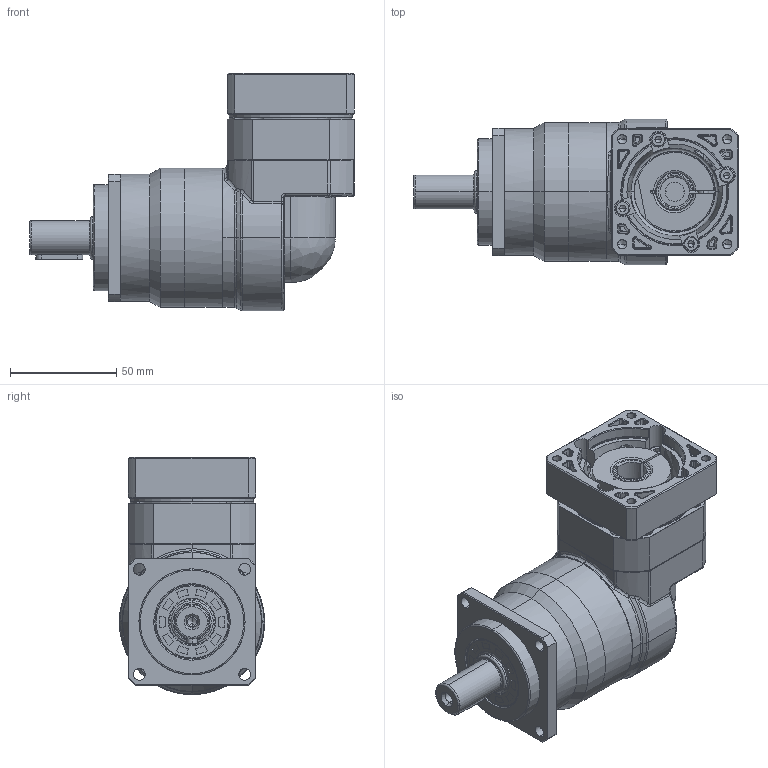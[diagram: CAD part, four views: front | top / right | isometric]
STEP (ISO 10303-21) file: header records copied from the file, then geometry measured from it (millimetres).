
FILE_DESCRIPTION (( 'STEP AP214' ), '1' );
FILE_NAME ('EVB060-L1-S2-P1 14-50-70-M5-33.STEP', '2025-01-09T06:24:16', ( '微软用户' ), ( '微软中国' ), 'SwSTEP 2.0', 'SolidWorks 2021', '' );
FILE_SCHEMA (( 'AUTOMOTIVE_DESIGN' ));
Length unit declared in the file: millimetre
Products named in the file (4): EVB060D-L1-S2-14-50-70-M5-33; 3.EVT064F眻褒眊极_step_stp_stp.stp; EVT060D-L2-8-38.1-66.7-M4-33; EVB060-L1-S2-P1 14-50-70-M5-33
Assembly tree (7 placements, depth 2):
  EVB060-L1-S2-P1 14-50-70-M5-33
    EVB060D-L1-S2-14-50-70-M5-33
    3.EVT064F眻褒眊极_step_stp_stp.stp
    EVT060D-L2-8-38.1-66.7-M4-33  x5
Bounding box: 153 x 68.5 x 111.75 mm (x, y, z)
Volume: 404184.7 mm3; surface area: 111628.8 mm2
Topology: 17 solids, 27 shells, 1443 faces, 3598 edges, 2221 vertices
Faces by surface type: cylinder 435, plane 394, cone 251, bspline 197, torus 166
Entity records: 56786 total; most frequent: CARTESIAN_POINT 27136, ORIENTED_EDGE 6400, DIRECTION 5751, EDGE_CURVE 3204, AXIS2_PLACEMENT_3D 2343, VERTEX_POINT 2009, EDGE_LOOP 1460, FACE_OUTER_BOUND 1315
